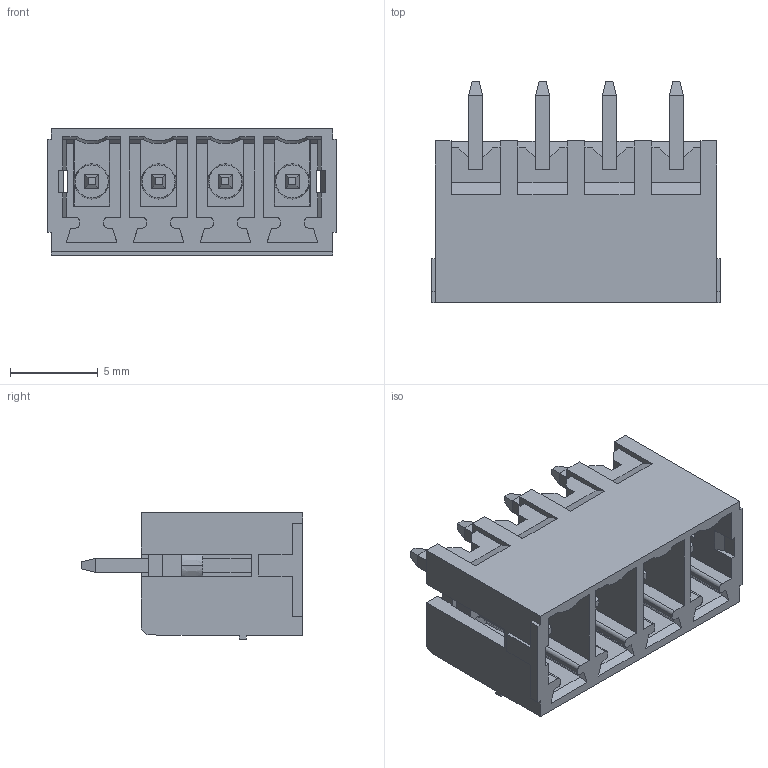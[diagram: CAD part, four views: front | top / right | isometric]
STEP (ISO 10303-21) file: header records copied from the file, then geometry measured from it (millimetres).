
FILE_DESCRIPTION(('FreeCAD Model'),'2;1');
FILE_NAME('Open CASCADE Shape Model','2023-05-24T15:51:11',('Author'),( ''),'Open CASCADE STEP processor 7.6','FreeCAD','Unknown');
FILE_SCHEMA(('AUTOMOTIVE_DESIGN { 1 0 10303 214 1 1 1 1 }'));
Length unit declared in the file: millimetre
Products named in the file (1): BR7MC2-04
Bounding box: 16.43 x 12.6 x 7.2 mm (x, y, z)
Volume: 496.4 mm3; surface area: 1516.2 mm2
Topology: 1 solids, 1 shells, 363 faces, 983 edges, 626 vertices
Faces by surface type: plane 322, cylinder 21, cone 12, sphere 8
Entity records: 24343 total; most frequent: CARTESIAN_POINT 4609, DIRECTION 3670, LINE 2745, VECTOR 2745, ORIENTED_EDGE 1950, PCURVE 1950, DEFINITIONAL_REPRESENTATION 1950, EDGE_CURVE 975
